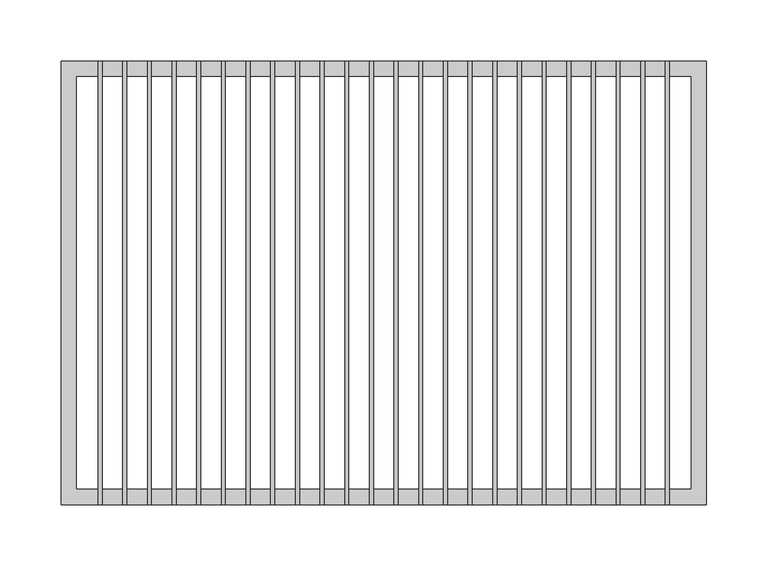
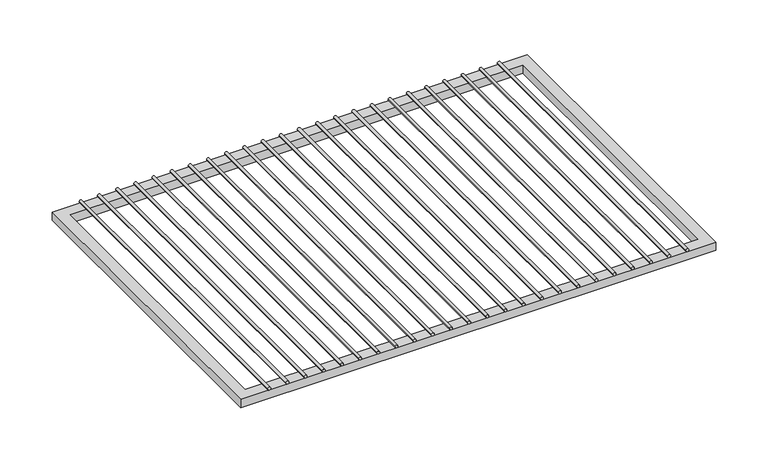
"""IFC4 building model written with IfcOpenShell, lengths in millimetres: furniture geometry, HermanMiller_CoStruc_CO252_CWireShelf : 14D x 20W."""

from ifc_helpers import new_model, si_unit, point, frame, frame_2d, origin, place, context, project, spatial, polyline, circle_curve, trimmed, segment, composite_curve, outline, extrude, source, transform, mapped, element, save


def furniture_19db293d(model_context):
    return source(origin(), model_context, "Body", "SweptSolid", [
        extrude(outline(composite_curve([segment(trimmed(circle_curve(frame_2d((1092.99502, -211.6206522)), 1.5875), [point((1092.99502, -213.2081522))], [point((1092.99502, -210.0331522))], False, "CARTESIAN"), True, "CONTINUOUS"), segment(trimmed(circle_curve(frame_2d((1092.99502, -211.6206522)), 1.5875), [point((1092.99502, -210.0331522))], [point((1092.99502, -213.2081522))], False, "CARTESIAN"), True, "CONTINUOUS")], self_intersect=False)), frame((0.0, -180.975, 0.0), z_axis=(0.0, 1.0, 0.0), x_axis=(0.0, 0.0, 1.0)), (0.0, 0.0, 1.0), 361.95),
        extrude(outline(composite_curve([segment(trimmed(circle_curve(frame_2d((1092.99502, -191.4663043)), 1.5875), [point((1092.99502, -193.0538043))], [point((1092.99502, -189.8788043))], False, "CARTESIAN"), True, "CONTINUOUS"), segment(trimmed(circle_curve(frame_2d((1092.99502, -191.4663043)), 1.5875), [point((1092.99502, -189.8788043))], [point((1092.99502, -193.0538043))], False, "CARTESIAN"), True, "CONTINUOUS")], self_intersect=False)), frame((0.0, -180.975, 0.0), z_axis=(0.0, 1.0, 0.0), x_axis=(0.0, 0.0, 1.0)), (0.0, 0.0, 1.0), 361.95),
        extrude(outline(composite_curve([segment(trimmed(circle_curve(frame_2d((1092.99502, -171.3119565)), 1.5875), [point((1092.99502, -172.8994565))], [point((1092.99502, -169.7244565))], False, "CARTESIAN"), True, "CONTINUOUS"), segment(trimmed(circle_curve(frame_2d((1092.99502, -171.3119565)), 1.5875), [point((1092.99502, -169.7244565))], [point((1092.99502, -172.8994565))], False, "CARTESIAN"), True, "CONTINUOUS")], self_intersect=False)), frame((0.0, -180.975, 0.0), z_axis=(0.0, 1.0, 0.0), x_axis=(0.0, 0.0, 1.0)), (0.0, 0.0, 1.0), 361.95),
        extrude(outline(composite_curve([segment(trimmed(circle_curve(frame_2d((1092.99502, -151.1576087)), 1.5875), [point((1092.99502, -152.7451087))], [point((1092.99502, -149.5701087))], False, "CARTESIAN"), True, "CONTINUOUS"), segment(trimmed(circle_curve(frame_2d((1092.99502, -151.1576087)), 1.5875), [point((1092.99502, -149.5701087))], [point((1092.99502, -152.7451087))], False, "CARTESIAN"), True, "CONTINUOUS")], self_intersect=False)), frame((0.0, -180.975, 0.0), z_axis=(0.0, 1.0, 0.0), x_axis=(0.0, 0.0, 1.0)), (0.0, 0.0, 1.0), 361.95),
        extrude(outline(composite_curve([segment(trimmed(circle_curve(frame_2d((1092.99502, -131.0032609)), 1.5875), [point((1092.99502, -132.5907609))], [point((1092.99502, -129.4157609))], False, "CARTESIAN"), True, "CONTINUOUS"), segment(trimmed(circle_curve(frame_2d((1092.99502, -131.0032609)), 1.5875), [point((1092.99502, -129.4157609))], [point((1092.99502, -132.5907609))], False, "CARTESIAN"), True, "CONTINUOUS")], self_intersect=False)), frame((0.0, -180.975, 0.0), z_axis=(0.0, 1.0, 0.0), x_axis=(0.0, 0.0, 1.0)), (0.0, 0.0, 1.0), 361.95),
        extrude(outline(composite_curve([segment(trimmed(circle_curve(frame_2d((1092.99502, -110.848913)), 1.5875), [point((1092.99502, -112.436413))], [point((1092.99502, -109.261413))], False, "CARTESIAN"), True, "CONTINUOUS"), segment(trimmed(circle_curve(frame_2d((1092.99502, -110.848913)), 1.5875), [point((1092.99502, -109.261413))], [point((1092.99502, -112.436413))], False, "CARTESIAN"), True, "CONTINUOUS")], self_intersect=False)), frame((0.0, -180.975, 0.0), z_axis=(0.0, 1.0, 0.0), x_axis=(0.0, 0.0, 1.0)), (0.0, 0.0, 1.0), 361.95),
        extrude(outline(composite_curve([segment(trimmed(circle_curve(frame_2d((1092.99502, -90.6945652)), 1.5875), [point((1092.99502, -92.2820652))], [point((1092.99502, -89.1070652))], False, "CARTESIAN"), True, "CONTINUOUS"), segment(trimmed(circle_curve(frame_2d((1092.99502, -90.6945652)), 1.5875), [point((1092.99502, -89.1070652))], [point((1092.99502, -92.2820652))], False, "CARTESIAN"), True, "CONTINUOUS")], self_intersect=False)), frame((0.0, -180.975, 0.0), z_axis=(0.0, 1.0, 0.0), x_axis=(0.0, 0.0, 1.0)), (0.0, 0.0, 1.0), 361.95),
        extrude(outline(composite_curve([segment(trimmed(circle_curve(frame_2d((1092.99502, -70.5402174)), 1.5875), [point((1092.99502, -72.1277174))], [point((1092.99502, -68.9527174))], False, "CARTESIAN"), True, "CONTINUOUS"), segment(trimmed(circle_curve(frame_2d((1092.99502, -70.5402174)), 1.5875), [point((1092.99502, -68.9527174))], [point((1092.99502, -72.1277174))], False, "CARTESIAN"), True, "CONTINUOUS")], self_intersect=False)), frame((0.0, -180.975, 0.0), z_axis=(0.0, 1.0, 0.0), x_axis=(0.0, 0.0, 1.0)), (0.0, 0.0, 1.0), 361.95),
        extrude(outline(composite_curve([segment(trimmed(circle_curve(frame_2d((1092.99502, -50.3858696)), 1.5875), [point((1092.99502, -51.9733696))], [point((1092.99502, -48.7983696))], False, "CARTESIAN"), True, "CONTINUOUS"), segment(trimmed(circle_curve(frame_2d((1092.99502, -50.3858696)), 1.5875), [point((1092.99502, -48.7983696))], [point((1092.99502, -51.9733696))], False, "CARTESIAN"), True, "CONTINUOUS")], self_intersect=False)), frame((0.0, -180.975, 0.0), z_axis=(0.0, 1.0, 0.0), x_axis=(0.0, 0.0, 1.0)), (0.0, 0.0, 1.0), 361.95),
        extrude(outline(composite_curve([segment(trimmed(circle_curve(frame_2d((1092.99502, -30.2315217)), 1.5875), [point((1092.99502, -31.8190217))], [point((1092.99502, -28.6440217))], False, "CARTESIAN"), True, "CONTINUOUS"), segment(trimmed(circle_curve(frame_2d((1092.99502, -30.2315217)), 1.5875), [point((1092.99502, -28.6440217))], [point((1092.99502, -31.8190217))], False, "CARTESIAN"), True, "CONTINUOUS")], self_intersect=False)), frame((0.0, -180.975, 0.0), z_axis=(0.0, 1.0, 0.0), x_axis=(0.0, 0.0, 1.0)), (0.0, 0.0, 1.0), 361.95),
        extrude(outline(composite_curve([segment(trimmed(circle_curve(frame_2d((1092.99502, -10.0771739)), 1.5875), [point((1092.99502, -11.6646739))], [point((1092.99502, -8.4896739))], False, "CARTESIAN"), True, "CONTINUOUS"), segment(trimmed(circle_curve(frame_2d((1092.99502, -10.0771739)), 1.5875), [point((1092.99502, -8.4896739))], [point((1092.99502, -11.6646739))], False, "CARTESIAN"), True, "CONTINUOUS")], self_intersect=False)), frame((0.0, -180.975, 0.0), z_axis=(0.0, 1.0, 0.0), x_axis=(0.0, 0.0, 1.0)), (0.0, 0.0, 1.0), 361.95),
        extrude(outline(composite_curve([segment(trimmed(circle_curve(frame_2d((1092.99502, 10.0771739)), 1.5875), [point((1092.99502, 8.4896739))], [point((1092.99502, 11.6646739))], False, "CARTESIAN"), True, "CONTINUOUS"), segment(trimmed(circle_curve(frame_2d((1092.99502, 10.0771739)), 1.5875), [point((1092.99502, 11.6646739))], [point((1092.99502, 8.4896739))], False, "CARTESIAN"), True, "CONTINUOUS")], self_intersect=False)), frame((0.0, -180.975, 0.0), z_axis=(0.0, 1.0, 0.0), x_axis=(0.0, 0.0, 1.0)), (0.0, 0.0, 1.0), 361.95),
        extrude(outline(composite_curve([segment(trimmed(circle_curve(frame_2d((1092.99502, 30.2315217)), 1.5875), [point((1092.99502, 28.6440217))], [point((1092.99502, 31.8190217))], False, "CARTESIAN"), True, "CONTINUOUS"), segment(trimmed(circle_curve(frame_2d((1092.99502, 30.2315217)), 1.5875), [point((1092.99502, 31.8190217))], [point((1092.99502, 28.6440217))], False, "CARTESIAN"), True, "CONTINUOUS")], self_intersect=False)), frame((0.0, -180.975, 0.0), z_axis=(0.0, 1.0, 0.0), x_axis=(0.0, 0.0, 1.0)), (0.0, 0.0, 1.0), 361.95),
        extrude(outline(composite_curve([segment(trimmed(circle_curve(frame_2d((1092.99502, 50.3858696)), 1.5875), [point((1092.99502, 48.7983696))], [point((1092.99502, 51.9733696))], False, "CARTESIAN"), True, "CONTINUOUS"), segment(trimmed(circle_curve(frame_2d((1092.99502, 50.3858696)), 1.5875), [point((1092.99502, 51.9733696))], [point((1092.99502, 48.7983696))], False, "CARTESIAN"), True, "CONTINUOUS")], self_intersect=False)), frame((0.0, -180.975, 0.0), z_axis=(0.0, 1.0, 0.0), x_axis=(0.0, 0.0, 1.0)), (0.0, 0.0, 1.0), 361.95),
        extrude(outline(composite_curve([segment(trimmed(circle_curve(frame_2d((1092.99502, 70.5402174)), 1.5875), [point((1092.99502, 68.9527174))], [point((1092.99502, 72.1277174))], False, "CARTESIAN"), True, "CONTINUOUS"), segment(trimmed(circle_curve(frame_2d((1092.99502, 70.5402174)), 1.5875), [point((1092.99502, 72.1277174))], [point((1092.99502, 68.9527174))], False, "CARTESIAN"), True, "CONTINUOUS")], self_intersect=False)), frame((0.0, -180.975, 0.0), z_axis=(0.0, 1.0, 0.0), x_axis=(0.0, 0.0, 1.0)), (0.0, 0.0, 1.0), 361.95),
        extrude(outline(composite_curve([segment(trimmed(circle_curve(frame_2d((1092.99502, 90.6945652)), 1.5875), [point((1092.99502, 89.1070652))], [point((1092.99502, 92.2820652))], False, "CARTESIAN"), True, "CONTINUOUS"), segment(trimmed(circle_curve(frame_2d((1092.99502, 90.6945652)), 1.5875), [point((1092.99502, 92.2820652))], [point((1092.99502, 89.1070652))], False, "CARTESIAN"), True, "CONTINUOUS")], self_intersect=False)), frame((0.0, -180.975, 0.0), z_axis=(0.0, 1.0, 0.0), x_axis=(0.0, 0.0, 1.0)), (0.0, 0.0, 1.0), 361.95),
        extrude(outline(composite_curve([segment(trimmed(circle_curve(frame_2d((1092.99502, 110.848913)), 1.5875), [point((1092.99502, 109.261413))], [point((1092.99502, 112.436413))], False, "CARTESIAN"), True, "CONTINUOUS"), segment(trimmed(circle_curve(frame_2d((1092.99502, 110.848913)), 1.5875), [point((1092.99502, 112.436413))], [point((1092.99502, 109.261413))], False, "CARTESIAN"), True, "CONTINUOUS")], self_intersect=False)), frame((0.0, -180.975, 0.0), z_axis=(0.0, 1.0, 0.0), x_axis=(0.0, 0.0, 1.0)), (0.0, 0.0, 1.0), 361.95),
        extrude(outline(composite_curve([segment(trimmed(circle_curve(frame_2d((1092.99502, 131.0032609)), 1.5875), [point((1092.99502, 129.4157609))], [point((1092.99502, 132.5907609))], False, "CARTESIAN"), True, "CONTINUOUS"), segment(trimmed(circle_curve(frame_2d((1092.99502, 131.0032609)), 1.5875), [point((1092.99502, 132.5907609))], [point((1092.99502, 129.4157609))], False, "CARTESIAN"), True, "CONTINUOUS")], self_intersect=False)), frame((0.0, -180.975, 0.0), z_axis=(0.0, 1.0, 0.0), x_axis=(0.0, 0.0, 1.0)), (0.0, 0.0, 1.0), 361.95),
        extrude(outline(composite_curve([segment(trimmed(circle_curve(frame_2d((1092.99502, 151.1576087)), 1.5875), [point((1092.99502, 149.5701087))], [point((1092.99502, 152.7451087))], False, "CARTESIAN"), True, "CONTINUOUS"), segment(trimmed(circle_curve(frame_2d((1092.99502, 151.1576087)), 1.5875), [point((1092.99502, 152.7451087))], [point((1092.99502, 149.5701087))], False, "CARTESIAN"), True, "CONTINUOUS")], self_intersect=False)), frame((0.0, -180.975, 0.0), z_axis=(0.0, 1.0, 0.0), x_axis=(0.0, 0.0, 1.0)), (0.0, 0.0, 1.0), 361.95),
        extrude(outline(composite_curve([segment(trimmed(circle_curve(frame_2d((1092.99502, 171.3119565)), 1.5875), [point((1092.99502, 169.7244565))], [point((1092.99502, 172.8994565))], False, "CARTESIAN"), True, "CONTINUOUS"), segment(trimmed(circle_curve(frame_2d((1092.99502, 171.3119565)), 1.5875), [point((1092.99502, 172.8994565))], [point((1092.99502, 169.7244565))], False, "CARTESIAN"), True, "CONTINUOUS")], self_intersect=False)), frame((0.0, -180.975, 0.0), z_axis=(0.0, 1.0, 0.0), x_axis=(0.0, 0.0, 1.0)), (0.0, 0.0, 1.0), 361.95),
        extrude(outline(composite_curve([segment(trimmed(circle_curve(frame_2d((1092.99502, 191.4663043)), 1.5875), [point((1092.99502, 189.8788043))], [point((1092.99502, 193.0538043))], False, "CARTESIAN"), True, "CONTINUOUS"), segment(trimmed(circle_curve(frame_2d((1092.99502, 191.4663043)), 1.5875), [point((1092.99502, 193.0538043))], [point((1092.99502, 189.8788043))], False, "CARTESIAN"), True, "CONTINUOUS")], self_intersect=False)), frame((0.0, -180.975, 0.0), z_axis=(0.0, 1.0, 0.0), x_axis=(0.0, 0.0, 1.0)), (0.0, 0.0, 1.0), 361.95),
        extrude(outline(composite_curve([segment(trimmed(circle_curve(frame_2d((1092.99502, 211.6206522)), 1.5875), [point((1092.99502, 210.0331522))], [point((1092.99502, 213.2081522))], False, "CARTESIAN"), True, "CONTINUOUS"), segment(trimmed(circle_curve(frame_2d((1092.99502, 211.6206522)), 1.5875), [point((1092.99502, 213.2081522))], [point((1092.99502, 210.0331522))], False, "CARTESIAN"), True, "CONTINUOUS")], self_intersect=False)), frame((0.0, -180.975, 0.0), z_axis=(0.0, 1.0, 0.0), x_axis=(0.0, 0.0, 1.0)), (0.0, 0.0, 1.0), 361.95),
        extrude(outline(composite_curve([segment(trimmed(circle_curve(frame_2d((1092.99502, -231.775)), 1.5875), [point((1092.99502, -233.3625))], [point((1092.99502, -230.1875))], False, "CARTESIAN"), True, "CONTINUOUS"), segment(trimmed(circle_curve(frame_2d((1092.99502, -231.775)), 1.5875), [point((1092.99502, -230.1875))], [point((1092.99502, -233.3625))], False, "CARTESIAN"), True, "CONTINUOUS")], self_intersect=False)), frame((0.0, -180.975, 0.0), z_axis=(0.0, 1.0, 0.0), x_axis=(0.0, 0.0, 1.0)), (0.0, 0.0, 1.0), 361.95),
        extrude(outline(composite_curve([segment(trimmed(circle_curve(frame_2d((1092.99502, 231.775)), 1.5875), [point((1092.99502, 230.1875))], [point((1092.99502, 233.3625))], False, "CARTESIAN"), True, "CONTINUOUS"), segment(trimmed(circle_curve(frame_2d((1092.99502, 231.775)), 1.5875), [point((1092.99502, 233.3625))], [point((1092.99502, 230.1875))], False, "CARTESIAN"), True, "CONTINUOUS")], self_intersect=False)), frame((0.0, -180.975, 0.0), z_axis=(0.0, 1.0, 0.0), x_axis=(0.0, 0.0, 1.0)), (0.0, 0.0, 1.0), 361.95),
        extrude(outline(polyline([(-263.525, -180.975), (-263.525, 180.975), (263.525, 180.975), (263.525, -180.975), (-263.525, -180.975)]), holes=[polyline([(-250.825, -168.275), (250.825, -168.275), (250.825, 168.275), (-250.825, 168.275), (-250.825, -168.275)])]), frame((0.0, 0.0, 1081.88252), z_axis=(0.0, 0.0, 1.0), x_axis=(1.0, 0.0, 0.0)), (0.0, 0.0, 1.0), 9.525),
    ])


if __name__ == "__main__":
    model = new_model("IFC4")
    model_context = context("Model", 3, world=origin())
    ifc_project = project(units=[si_unit("LENGTHUNIT", "METRE", prefix="MILLI")], contexts=[model_context])
    site = spatial("IfcSite", under=ifc_project)
    building = spatial("IfcBuilding", under=site)
    placement = place(None, origin())
    furniture_shape = furniture_19db293d(model_context)
    element("IfcFurniture", 1, ObjectType="HermanMiller_CoStruc_CO252_CWireShelf : 14D x 20W", at=placement, inside=building, context=model_context, shape_type="MappedRepresentation", body=[
        mapped(furniture_shape, transform((0.0, 0.0, 0.0), x_axis=(1.0, 0.0, 0.0), y_axis=(0.0, 1.0, 0.0), z_axis=(0.0, 0.0, 1.0))),
    ])
    save(model, "model.ifc")
